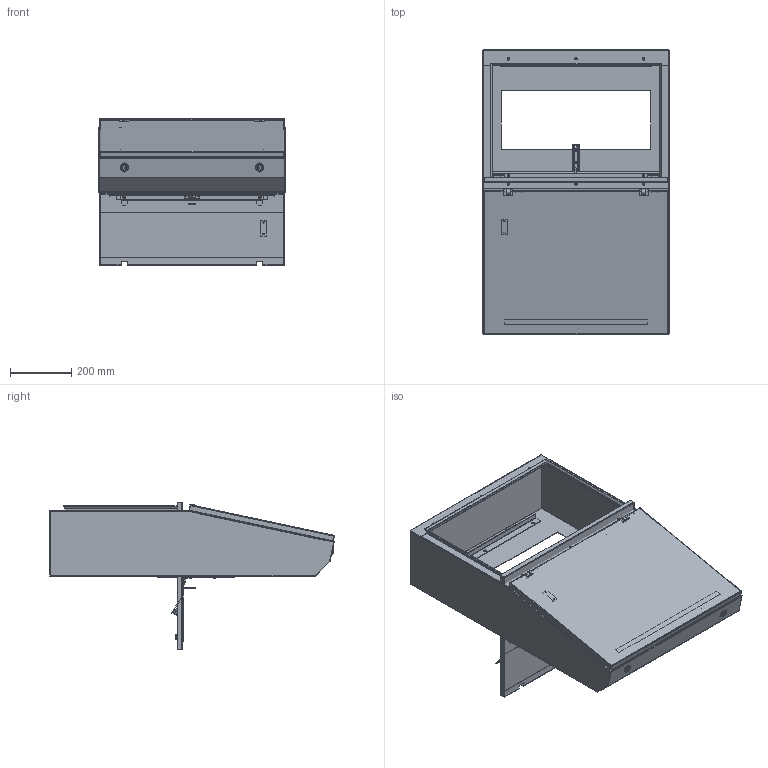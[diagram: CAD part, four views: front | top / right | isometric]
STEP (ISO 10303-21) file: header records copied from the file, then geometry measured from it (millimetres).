
FILE_DESCRIPTION( ( 'Unknown' ), '1' );
FILE_NAME( 'Q:/2000 SERIES/DESK UNITS/WEB DRAWINGS/STEP/2CSD82436.stp', 'Unknown', ( 'Unknown' ), ( 'Unknown' ), 'XStep 1.0', 'Unknown', ' ' );
FILE_SCHEMA( ( 'CONFIG_CONTROL_DESIGN' ) );
Length unit declared in the file: millimetre
Products named in the file (32): Assem1; Assem2; Assem3; Assem4; Assem5; Assem6; Assem7; Assem8; Assem9; 1; 2; 3; 4; 5; 6; 7; 8; 9; 10; 11; 12; 13; 14; 15; 16; 17; 18; 19; 20; 21; 22; 23
Bounding box: 609.6 x 931.78 x 482.6 mm (x, y, z)
Volume: 9040143.6 mm3; surface area: 9889028.9 mm2
Topology: 100 solids, 100 shells, 2440 faces, 6040 edges, 3893 vertices
Faces by surface type: plane 1617, cylinder 663, bspline 80, cone 41, torus 33, sphere 6
Full cylindrical faces by diameter (mm): 3.175 x12, 4.648 x7, 4.763 x12, 4.801 x8, 5 x8, 5.537 x22, 5.969 x4, 6 x4, 6.096 x4, 6.299 x4, 6.35 x15, 7.137 x15, 7.925 x4, 7.938 x6, 8.331 x4, 9.804 x11, 9.83 x8, 9.931 x7, 10.312 x4, 11.1 x4, 12.7 x14, 12.751 x4, 13.335 x4, 15.875 x4, 16.002 x4, 17.45 x4, 19.5 x4, 19.939 x4, 25.4 x4
Entity records: 22665 total; most frequent: CARTESIAN_POINT 4988, DIRECTION 3319, ORIENTED_EDGE 3264, EDGE_CURVE 1632, LINE 1185, VECTOR 1185, VERTEX_POINT 1080, AXIS2_PLACEMENT_3D 1067
